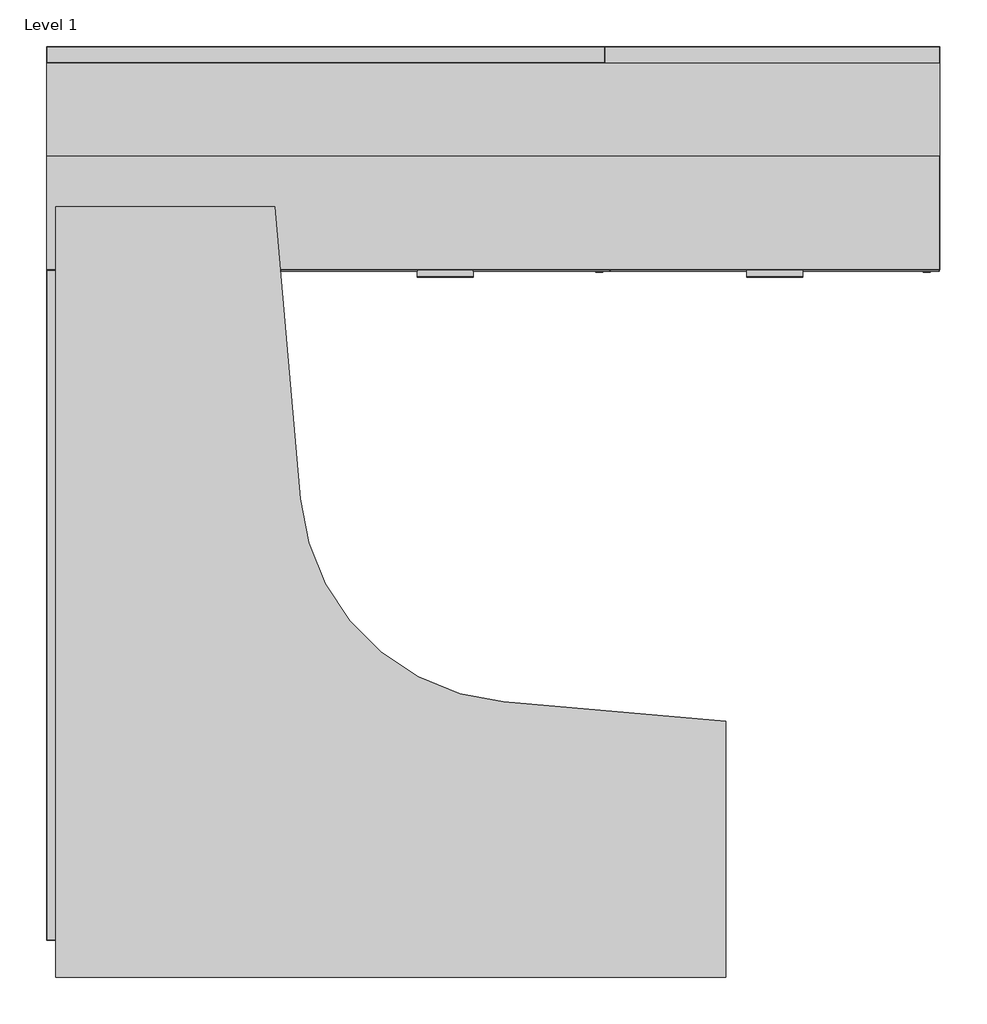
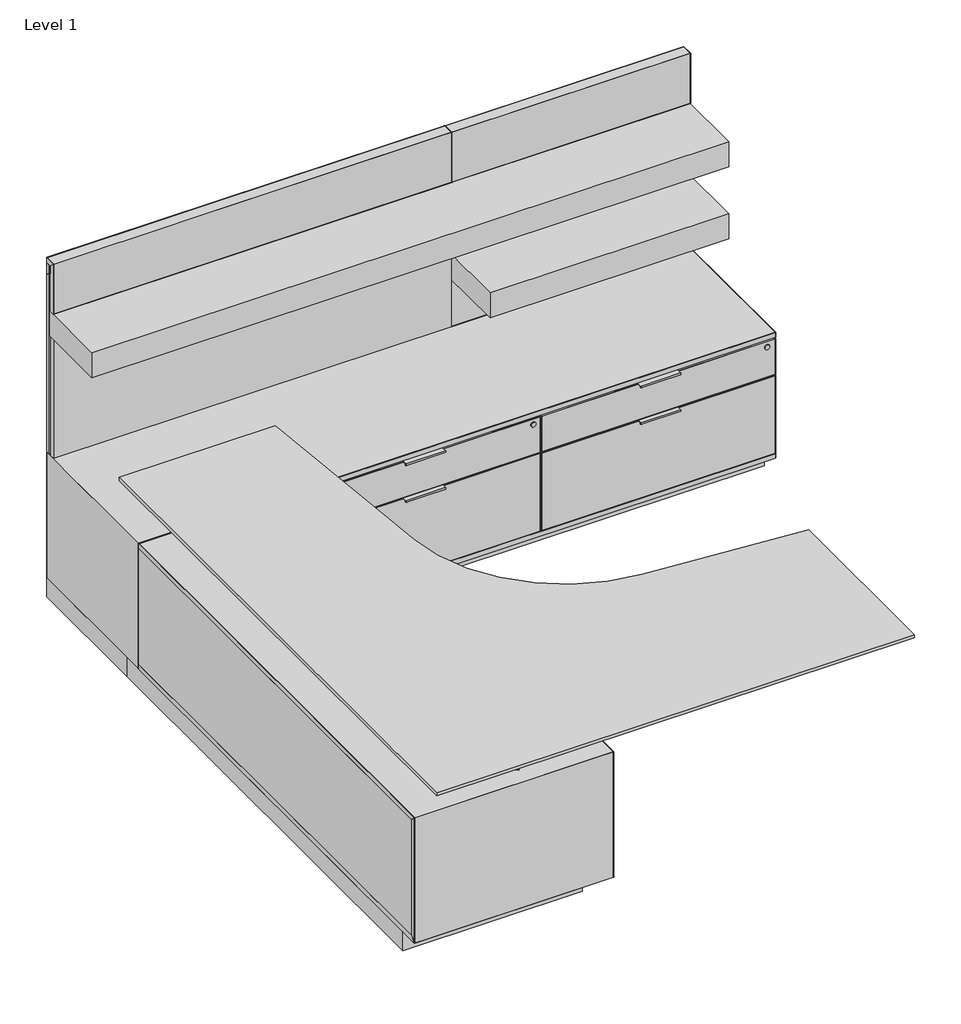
# One storey, incomplete: 3 proxies.
"""IFC4 building model written with IfcOpenShell, lengths in millimetres."""

from ifc_helpers import new_model, si_unit, origin, place, context, project, spatial, transform, mapped, element, save
from components import generic_models_66903318, generic_models_fdecc824, generic_models_be77584e

model = new_model("IFC4")

# Units and contexts
model_context = context("Model", 3, world=origin())
ifc_project = project(units=[si_unit("LENGTHUNIT", "METRE", prefix="MILLI")], contexts=[model_context])

# Site, building, storey
site = spatial("IfcSite", under=ifc_project)
building = spatial("IfcBuilding", under=site)
storey = spatial("IfcBuildingStorey", under=building, Name="Level 1", Elevation=0.0)

# Proxies
placement = place(None, origin())
generic_models_shape = generic_models_66903318(model_context)
element("IfcBuildingElementProxy", 1, Name="CCN^APOGEE_L1 WALL HUNG-ASSEMBLY", ObjectType="CCN^APOGEE_L1 WALL HUNG-ASSEMBLY", at=placement, inside=storey, context=model_context, shape_type="MappedRepresentation", body=[
    mapped(generic_models_shape, transform((2173.5122953, 1804.5701702, -525.9659461), x_axis=(1.0, 0.0, 0.0), y_axis=(0.0, 0.0, 1.0), z_axis=(0.0, -1.0, 0.0))),
])
generic_models_2_shape = generic_models_fdecc824(model_context)
element("IfcBuildingElementProxy", 2, Name="CCN^APOGEE_L1 DESK-ASSEMBLY", ObjectType="CCN^APOGEE_L1 DESK-ASSEMBLY", at=placement, inside=storey, context=model_context, shape_type="MappedRepresentation", body=[
    mapped(generic_models_2_shape, transform((2173.5122953, 1804.5701702, -525.9659461), x_axis=(1.0, 0.0, 0.0), y_axis=(0.0, 0.0, 1.0), z_axis=(0.0, -1.0, 0.0))),
])
generic_models_3_shape = generic_models_be77584e(model_context)
element("IfcBuildingElementProxy", 3, Name="CCN^APOGEE_L1 CREDENZA-ASSEMBLY", ObjectType="CCN^APOGEE_L1 CREDENZA-ASSEMBLY", at=placement, inside=storey, context=model_context, shape_type="MappedRepresentation", body=[
    mapped(generic_models_3_shape, transform((2173.5122953, 1804.5701702, -525.9659461), x_axis=(1.0, 0.0, 0.0), y_axis=(0.0, 0.0, 1.0), z_axis=(0.0, -1.0, 0.0))),
])

save(model, "model.ifc")
